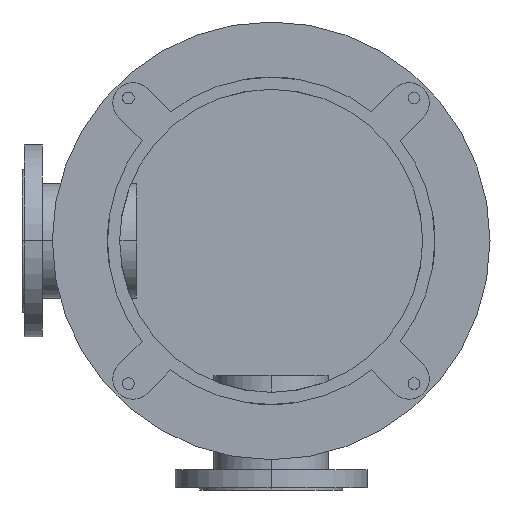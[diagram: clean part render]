
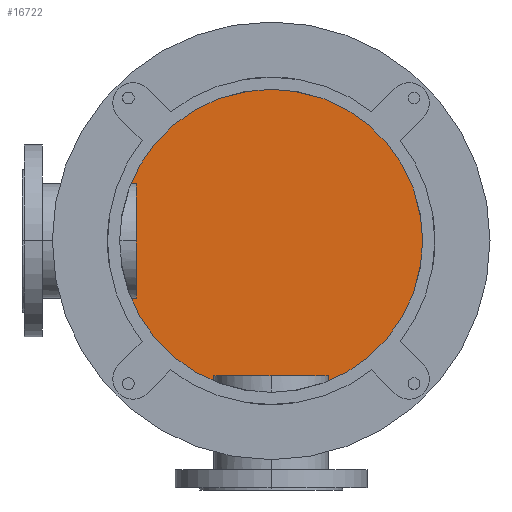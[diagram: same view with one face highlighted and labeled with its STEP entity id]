
A CAD part, front view. The second image highlights one B-rep face of the part: STEP entity #16722.
In plain terms, the highlighted planar face has unit normal (0, -1, 0).
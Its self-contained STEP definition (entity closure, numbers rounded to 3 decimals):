
#2855=CARTESIAN_POINT('',(0.,668.,0.));
#2856=DIRECTION('',(0.,-1.,0.));
#2857=DIRECTION('',(0.,0.,-1.));
#2858=AXIS2_PLACEMENT_3D('',#2855,#2856,#2857);
#3022=CARTESIAN_POINT('',(0.,668.,0.));
#3023=DIRECTION('',(0.,-1.,0.));
#3024=DIRECTION('',(0.,0.,1.));
#3025=AXIS2_PLACEMENT_3D('',#3022,#3023,#3024);
#8612=CARTESIAN_POINT('',(0.,668.,240.));
#8613=CARTESIAN_POINT('',(0.,668.,-240.));
#8614=VERTEX_POINT('',#8612);
#8615=VERTEX_POINT('',#8613);
#16713=CARTESIAN_POINT('',(0.,668.,0.));
#16714=DIRECTION('',(0.,1.,0.));
#16715=DIRECTION('',(0.,0.,-1.));
#16716=AXIS2_PLACEMENT_3D('',#16713,#16714,#16715);
#16717=PLANE('',#16716);
#16718=ORIENTED_EDGE('',*,*,#13770,.F.);
#16719=ORIENTED_EDGE('',*,*,#13630,.F.);
#16720=EDGE_LOOP('',(#16718,#16719));
#16721=FACE_OUTER_BOUND('',#16720,.F.);
#16722=ADVANCED_FACE('',(#16721),#16717,.F.);
#2859=CIRCLE('',#2858,240.);
#3026=CIRCLE('',#3025,240.);
#13630=EDGE_CURVE('',#8615,#8614,#2859,.T.);
#13770=EDGE_CURVE('',#8614,#8615,#3026,.T.);
